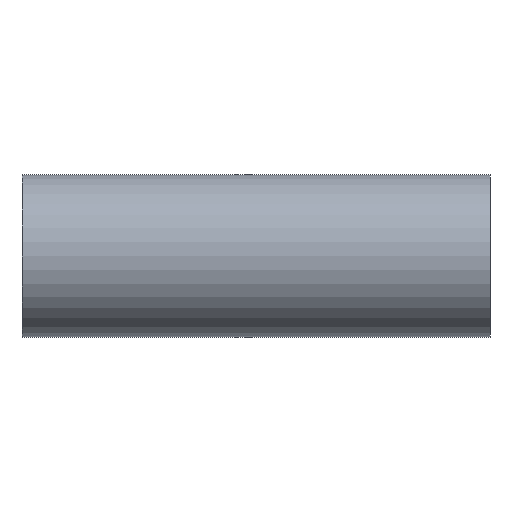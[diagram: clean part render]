
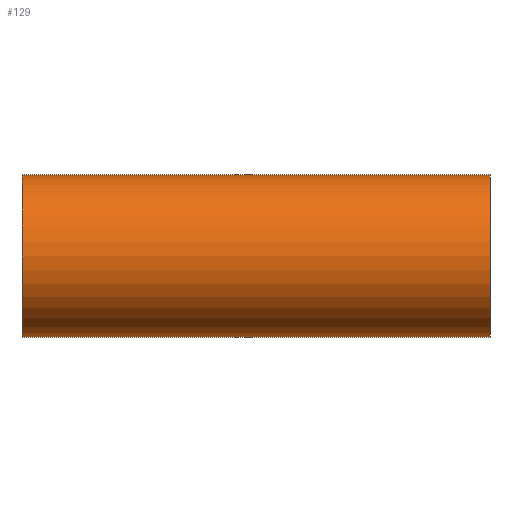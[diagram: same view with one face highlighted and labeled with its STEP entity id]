
A CAD part, front view. The second image highlights one B-rep face of the part: STEP entity #129.
In plain terms, the highlighted cylindrical face has radius 25.4 mm (diameter 50.8 mm), a partial arc.
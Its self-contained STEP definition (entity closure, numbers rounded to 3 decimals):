
#4 = AXIS2_PLACEMENT_3D ( 'NONE', #436, #164, #397 ) ;
#20 = EDGE_CURVE ( 'NONE', #62, #246, #456, .T. ) ;
#23 = CARTESIAN_POINT ( 'NONE',  ( -73., 0., 0. ) ) ;
#44 = CARTESIAN_POINT ( 'NONE',  ( -73., 0., 25.4 ) ) ;
#46 = DIRECTION ( 'NONE',  ( 1., 0., 0. ) ) ;
#47 = VERTEX_POINT ( 'NONE', #44 ) ;
#59 = LINE ( 'NONE', #290, #363 ) ;
#62 = VERTEX_POINT ( 'NONE', #434 ) ;
#67 = DIRECTION ( 'NONE',  ( 0., 0., -1. ) ) ;
#81 = EDGE_CURVE ( 'NONE', #246, #468, #324, .T. ) ;
#86 = CARTESIAN_POINT ( 'NONE',  ( -73., 0., -25.4 ) ) ;
#105 = EDGE_CURVE ( 'NONE', #47, #468, #59, .T. ) ;
#129 = ADVANCED_FACE ( 'NONE', ( #265 ), #353, .T. ) ;
#138 = AXIS2_PLACEMENT_3D ( 'NONE', #173, #258, #422 ) ;
#144 = ORIENTED_EDGE ( 'NONE', *, *, #20, .T. ) ;
#164 = DIRECTION ( 'NONE',  ( -1., 0., 0. ) ) ;
#171 = AXIS2_PLACEMENT_3D ( 'NONE', #23, #184, #67 ) ;
#173 = CARTESIAN_POINT ( 'NONE',  ( -73., 0., 0. ) ) ;
#184 = DIRECTION ( 'NONE',  ( 1., 0., 0. ) ) ;
#204 = DIRECTION ( 'NONE',  ( 1., 0., 0. ) ) ;
#208 = EDGE_CURVE ( 'NONE', #47, #62, #254, .T. ) ;
#229 = EDGE_LOOP ( 'NONE', ( #435, #349, #144, #478 ) ) ;
#246 = VERTEX_POINT ( 'NONE', #350 ) ;
#254 = CIRCLE ( 'NONE', #138, 25.4 ) ;
#258 = DIRECTION ( 'NONE',  ( 1., 0., 0. ) ) ;
#265 = FACE_OUTER_BOUND ( 'NONE', #229, .T. ) ;
#290 = CARTESIAN_POINT ( 'NONE',  ( -73., 0., 25.4 ) ) ;
#324 = CIRCLE ( 'NONE', #4, 25.4 ) ;
#349 = ORIENTED_EDGE ( 'NONE', *, *, #208, .T. ) ;
#350 = CARTESIAN_POINT ( 'NONE',  ( 73., 0., -25.4 ) ) ;
#353 = CYLINDRICAL_SURFACE ( 'NONE', #171, 25.4 ) ;
#358 = VECTOR ( 'NONE', #46, 1000. ) ;
#363 = VECTOR ( 'NONE', #204, 1000. ) ;
#397 = DIRECTION ( 'NONE',  ( 0., 0., -1. ) ) ;
#403 = CARTESIAN_POINT ( 'NONE',  ( 73., 0., 25.4 ) ) ;
#422 = DIRECTION ( 'NONE',  ( 0., 0., -1. ) ) ;
#434 = CARTESIAN_POINT ( 'NONE',  ( -73., 0., -25.4 ) ) ;
#435 = ORIENTED_EDGE ( 'NONE', *, *, #105, .F. ) ;
#436 = CARTESIAN_POINT ( 'NONE',  ( 73., 0., 0. ) ) ;
#456 = LINE ( 'NONE', #86, #358 ) ;
#468 = VERTEX_POINT ( 'NONE', #403 ) ;
#478 = ORIENTED_EDGE ( 'NONE', *, *, #81, .T. ) ;
